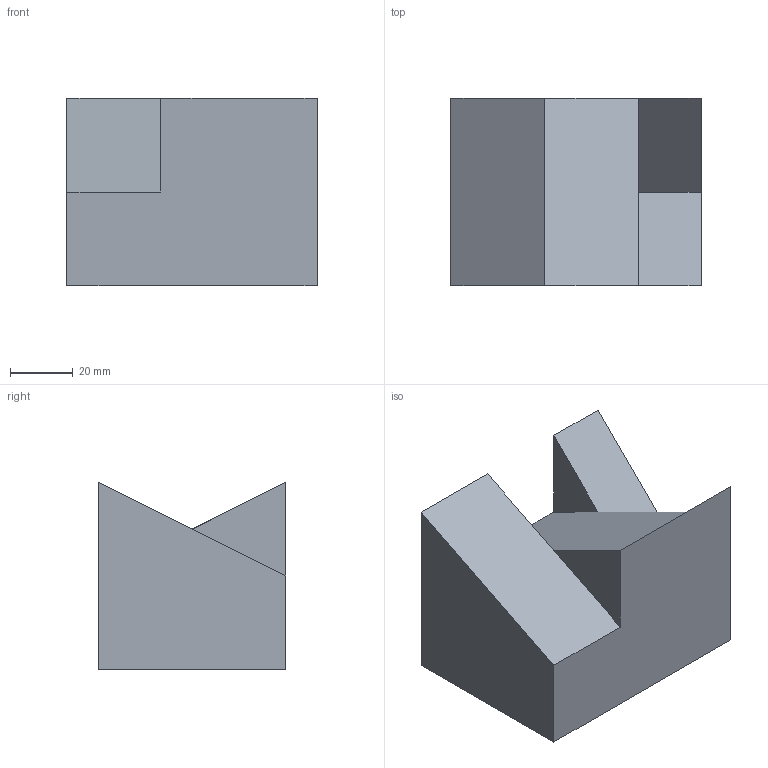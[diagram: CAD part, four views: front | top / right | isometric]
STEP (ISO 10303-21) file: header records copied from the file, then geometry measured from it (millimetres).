
FILE_DESCRIPTION(/* description */ (''),/* implementation_level */ '2;1');
FILE_NAME(/* time_stamp */ '2020-06-16T15:00:42+01:00',/* author */ ('DesignClass.co.uk'),/* originating_system */ 'Solidworks 2021',/* authorisation */ '');
FILE_SCHEMA (('AUTOMOTIVE_DESIGN { 1 0 10303 214 3 1 1 }'));
Length unit declared in the file: millimetre
Products named in the file (1): Task_9
Bounding box: 80 x 60 x 60 mm (x, y, z)
Volume: 171000 mm3; surface area: 25213.6 mm2
Topology: 1 solids, 1 shells, 20 faces, 44 edges, 25 vertices
Faces by surface type: plane 20
Entity records: 567 total; most frequent: CARTESIAN_POINT 90, ORIENTED_EDGE 88, DIRECTION 86, LINE 44, VECTOR 44, EDGE_CURVE 44, VERTEX_POINT 25, AXIS2_PLACEMENT_3D 21
